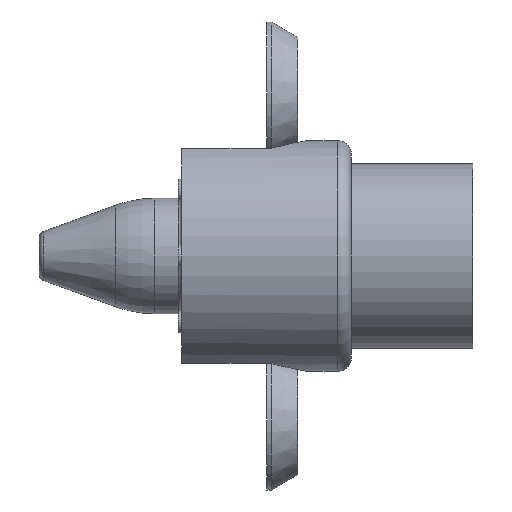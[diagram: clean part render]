
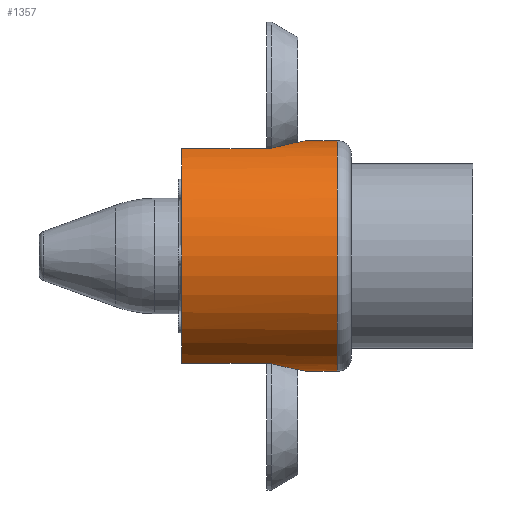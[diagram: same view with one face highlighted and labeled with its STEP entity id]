
A CAD part, left-side view. The second image highlights one B-rep face of the part: STEP entity #1357.
In plain terms, the highlighted cylindrical face has radius 12.7 mm (diameter 25.4 mm), a partial arc.
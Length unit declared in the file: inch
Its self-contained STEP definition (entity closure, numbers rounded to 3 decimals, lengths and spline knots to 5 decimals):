
#11 = CARTESIAN_POINT ( 'NONE',  ( -0.18488, 0.35358, -0.46457 ) ) ;
#31 = LINE ( 'NONE', #1212, #911 ) ;
#56 = DIRECTION ( 'NONE',  ( 0., 1., 0. ) ) ;
#61 = ORIENTED_EDGE ( 'NONE', *, *, #1603, .T. ) ;
#82 = CIRCLE ( 'NONE', #433, 0.5 ) ;
#89 = VERTEX_POINT ( 'NONE', #653 ) ;
#118 = B_SPLINE_CURVE_WITH_KNOTS ( 'NONE', 3,
 ( #1601, #1321, #844, #254, #1451, #715, #1462, #561, #992, #850, #1753, #1297, #1605, #1751 ),
 .UNSPECIFIED., .F., .F.,
 ( 4, 2, 2, 2, 2, 2, 4 ),
 ( 0.00011, 0.00175, 0.00339, 0.00421, 0.00503, 0.00585, 0.00667 ),
 .UNSPECIFIED. ) ;
#127 = VERTEX_POINT ( 'NONE', #1445 ) ;
#135 = CARTESIAN_POINT ( 'NONE',  ( -0.1227, 0.26492, -0.48493 ) ) ;
#139 = CARTESIAN_POINT ( 'NONE',  ( -0.04208, 0.19477, -0.49833 ) ) ;
#198 = CARTESIAN_POINT ( 'NONE',  ( 0., 0.06, -0.5 ) ) ;
#204 = CARTESIAN_POINT ( 'NONE',  ( -0.01079, 0.1851, -0.5 ) ) ;
#221 = AXIS2_PLACEMENT_3D ( 'NONE', #1140, #1154, #397 ) ;
#244 = LINE ( 'NONE', #1769, #741 ) ;
#254 = CARTESIAN_POINT ( 'NONE',  ( -0.13565, 0.28152, 0.48142 ) ) ;
#276 = CARTESIAN_POINT ( 'NONE',  ( -0.18348, 0.35136, 0.46512 ) ) ;
#281 = CARTESIAN_POINT ( 'NONE',  ( -0.18488, 0.35358, 0.46457 ) ) ;
#298 = CARTESIAN_POINT ( 'NONE',  ( -0.02171, 0.18727, -0.49963 ) ) ;
#337 = CARTESIAN_POINT ( 'NONE',  ( -0.18566, 0.35886, 0.46425 ) ) ;
#355 = DIRECTION ( 'NONE',  ( 0., 0., -1. ) ) ;
#397 = DIRECTION ( 'NONE',  ( 0., 0., 1. ) ) ;
#403 = VERTEX_POINT ( 'NONE', #1116 ) ;
#427 = CARTESIAN_POINT ( 'NONE',  ( -0.17221, 0.33349, -0.46957 ) ) ;
#433 = AXIS2_PLACEMENT_3D ( 'NONE', #1403, #56, #501 ) ;
#437 = VECTOR ( 'NONE', #1737, 39.37008 ) ;
#473 = EDGE_CURVE ( 'NONE', #1292, #1296, #118, .T. ) ;
#501 = DIRECTION ( 'NONE',  ( 0., 0., 1. ) ) ;
#528 = EDGE_CURVE ( 'NONE', #1296, #403, #244, .T. ) ;
#558 = EDGE_CURVE ( 'NONE', #1292, #1723, #1213, .T. ) ;
#561 = CARTESIAN_POINT ( 'NONE',  ( -0.07774, 0.21884, 0.49398 ) ) ;
#562 = FACE_OUTER_BOUND ( 'NONE', #640, .T. ) ;
#568 = ORIENTED_EDGE ( 'NONE', *, *, #1106, .F. ) ;
#585 = CARTESIAN_POINT ( 'NONE',  ( -0.07786, 0.21893, -0.49397 ) ) ;
#617 = B_SPLINE_CURVE_WITH_KNOTS ( 'NONE', 3,
 ( #1790, #1334, #11, #1930 ),
 .UNSPECIFIED., .F., .F.,
 ( 4, 4 ),
 ( 0., 0.0002 ),
 .UNSPECIFIED. ) ;
#629 = ORIENTED_EDGE ( 'NONE', *, *, #528, .F. ) ;
#630 = CARTESIAN_POINT ( 'NONE',  ( -0.18566, 0.735, 0.46425 ) ) ;
#640 = EDGE_LOOP ( 'NONE', ( #629, #1761, #1542, #1533, #981, #568, #1054, #1745, #61, #941 ) ) ;
#644 = CARTESIAN_POINT ( 'NONE',  ( 0., 0.1851, -0.5 ) ) ;
#653 = CARTESIAN_POINT ( 'NONE',  ( -0.18566, 0.35886, -0.46425 ) ) ;
#672 = CARTESIAN_POINT ( 'NONE',  ( -0.18566, 0.56827, 0.46425 ) ) ;
#715 = CARTESIAN_POINT ( 'NONE',  ( -0.10102, 0.24096, 0.48974 ) ) ;
#741 = VECTOR ( 'NONE', #1167, 39.37008 ) ;
#750 = DIRECTION ( 'NONE',  ( 0., -1., 0. ) ) ;
#755 = DIRECTION ( 'NONE',  ( 0., -1., 0. ) ) ;
#817 = VERTEX_POINT ( 'NONE', #877 ) ;
#826 = EDGE_CURVE ( 'NONE', #89, #1928, #617, .T. ) ;
#833 = CARTESIAN_POINT ( 'NONE',  ( -0.18348, 0.35136, 0.46512 ) ) ;
#844 = CARTESIAN_POINT ( 'NONE',  ( -0.16048, 0.31586, 0.47373 ) ) ;
#850 = CARTESIAN_POINT ( 'NONE',  ( -0.05168, 0.20005, 0.4974 ) ) ;
#869 = VERTEX_POINT ( 'NONE', #198 ) ;
#875 = CARTESIAN_POINT ( 'NONE',  ( -0.10126, 0.24121, -0.48969 ) ) ;
#877 = CARTESIAN_POINT ( 'NONE',  ( 0., 0.1851, -0.5 ) ) ;
#911 = VECTOR ( 'NONE', #755, 39.37008 ) ;
#941 = ORIENTED_EDGE ( 'NONE', *, *, #1842, .T. ) ;
#977 = VECTOR ( 'NONE', #1867, 39.37008 ) ;
#981 = ORIENTED_EDGE ( 'NONE', *, *, #1200, .F. ) ;
#992 = CARTESIAN_POINT ( 'NONE',  ( -0.06947, 0.21208, 0.49523 ) ) ;
#1054 = ORIENTED_EDGE ( 'NONE', *, *, #826, .T. ) ;
#1106 = EDGE_CURVE ( 'NONE', #89, #127, #1779, .T. ) ;
#1116 = CARTESIAN_POINT ( 'NONE',  ( 0., 0.06, 0.5 ) ) ;
#1140 = CARTESIAN_POINT ( 'NONE',  ( 0., 0.735, 0. ) ) ;
#1154 = DIRECTION ( 'NONE',  ( 0., 1., 0. ) ) ;
#1157 = EDGE_CURVE ( 'NONE', #1641, #1723, #1221, .T. ) ;
#1167 = DIRECTION ( 'NONE',  ( 0., -1., 0. ) ) ;
#1195 = CYLINDRICAL_SURFACE ( 'NONE', #1453, 0.5 ) ;
#1200 = EDGE_CURVE ( 'NONE', #127, #1641, #1241, .T. ) ;
#1212 = CARTESIAN_POINT ( 'NONE',  ( 0., 0.735, -0.5 ) ) ;
#1213 = B_SPLINE_CURVE_WITH_KNOTS ( 'NONE', 3,
 ( #276, #281, #1472, #1617 ),
 .UNSPECIFIED., .F., .F.,
 ( 4, 4 ),
 ( 0., 0.0002 ),
 .UNSPECIFIED. ) ;
#1221 = LINE ( 'NONE', #672, #437 ) ;
#1241 = CIRCLE ( 'NONE', #221, 0.5 ) ;
#1251 = CARTESIAN_POINT ( 'NONE',  ( 0., 0.735, 0. ) ) ;
#1292 = VERTEX_POINT ( 'NONE', #833 ) ;
#1296 = VERTEX_POINT ( 'NONE', #1811 ) ;
#1297 = CARTESIAN_POINT ( 'NONE',  ( -0.02171, 0.18727, 0.49963 ) ) ;
#1321 = CARTESIAN_POINT ( 'NONE',  ( -0.1722, 0.33348, 0.46957 ) ) ;
#1332 = CARTESIAN_POINT ( 'NONE',  ( -0.13573, 0.28162, -0.4814 ) ) ;
#1334 = CARTESIAN_POINT ( 'NONE',  ( -0.18566, 0.35618, -0.46425 ) ) ;
#1357 = ADVANCED_FACE ( 'NONE', ( #562 ), #1195, .T. ) ;
#1403 = CARTESIAN_POINT ( 'NONE',  ( 0., 0.06, 0. ) ) ;
#1445 = CARTESIAN_POINT ( 'NONE',  ( -0.18566, 0.735, -0.46425 ) ) ;
#1451 = CARTESIAN_POINT ( 'NONE',  ( -0.12258, 0.26476, 0.48497 ) ) ;
#1453 = AXIS2_PLACEMENT_3D ( 'NONE', #1251, #750, #355 ) ;
#1462 = CARTESIAN_POINT ( 'NONE',  ( -0.09351, 0.23326, 0.49124 ) ) ;
#1472 = CARTESIAN_POINT ( 'NONE',  ( -0.18566, 0.35618, 0.46425 ) ) ;
#1473 = CARTESIAN_POINT ( 'NONE',  ( -0.06953, 0.21212, -0.49522 ) ) ;
#1491 = CARTESIAN_POINT ( 'NONE',  ( -0.18348, 0.35136, -0.46512 ) ) ;
#1533 = ORIENTED_EDGE ( 'NONE', *, *, #1157, .F. ) ;
#1542 = ORIENTED_EDGE ( 'NONE', *, *, #558, .T. ) ;
#1601 = CARTESIAN_POINT ( 'NONE',  ( -0.18348, 0.35136, 0.46512 ) ) ;
#1603 = EDGE_CURVE ( 'NONE', #817, #869, #31, .T. ) ;
#1605 = CARTESIAN_POINT ( 'NONE',  ( -0.01079, 0.1851, 0.5 ) ) ;
#1617 = CARTESIAN_POINT ( 'NONE',  ( -0.18566, 0.35886, 0.46425 ) ) ;
#1624 = CARTESIAN_POINT ( 'NONE',  ( -0.18348, 0.35136, -0.46512 ) ) ;
#1629 = CARTESIAN_POINT ( 'NONE',  ( -0.09378, 0.23353, -0.49119 ) ) ;
#1641 = VERTEX_POINT ( 'NONE', #630 ) ;
#1669 = B_SPLINE_CURVE_WITH_KNOTS ( 'NONE', 3,
 ( #644, #204, #298, #139, #1789, #1473, #585, #1629, #875, #135, #1332, #1926, #427, #1491 ),
 .UNSPECIFIED., .F., .F.,
 ( 4, 2, 2, 2, 2, 2, 4 ),
 ( 0.00667, 0.00749, 0.00831, 0.00913, 0.00995, 0.01159, 0.01323 ),
 .UNSPECIFIED. ) ;
#1723 = VERTEX_POINT ( 'NONE', #337 ) ;
#1737 = DIRECTION ( 'NONE',  ( 0., -1., 0. ) ) ;
#1745 = ORIENTED_EDGE ( 'NONE', *, *, #1916, .F. ) ;
#1751 = CARTESIAN_POINT ( 'NONE',  ( 0., 0.1851, 0.5 ) ) ;
#1753 = CARTESIAN_POINT ( 'NONE',  ( -0.04203, 0.19475, 0.49833 ) ) ;
#1761 = ORIENTED_EDGE ( 'NONE', *, *, #473, .F. ) ;
#1769 = CARTESIAN_POINT ( 'NONE',  ( 0., 0.735, 0.5 ) ) ;
#1779 = LINE ( 'NONE', #1873, #977 ) ;
#1789 = CARTESIAN_POINT ( 'NONE',  ( -0.05171, 0.20007, -0.4974 ) ) ;
#1790 = CARTESIAN_POINT ( 'NONE',  ( -0.18566, 0.35886, -0.46425 ) ) ;
#1811 = CARTESIAN_POINT ( 'NONE',  ( 0., 0.1851, 0.5 ) ) ;
#1842 = EDGE_CURVE ( 'NONE', #869, #403, #82, .T. ) ;
#1867 = DIRECTION ( 'NONE',  ( 0., 1., 0. ) ) ;
#1873 = CARTESIAN_POINT ( 'NONE',  ( -0.18566, 0.56827, -0.46425 ) ) ;
#1916 = EDGE_CURVE ( 'NONE', #817, #1928, #1669, .T. ) ;
#1926 = CARTESIAN_POINT ( 'NONE',  ( -0.1605, 0.3159, -0.47372 ) ) ;
#1928 = VERTEX_POINT ( 'NONE', #1624 ) ;
#1930 = CARTESIAN_POINT ( 'NONE',  ( -0.18348, 0.35136, -0.46512 ) ) ;
